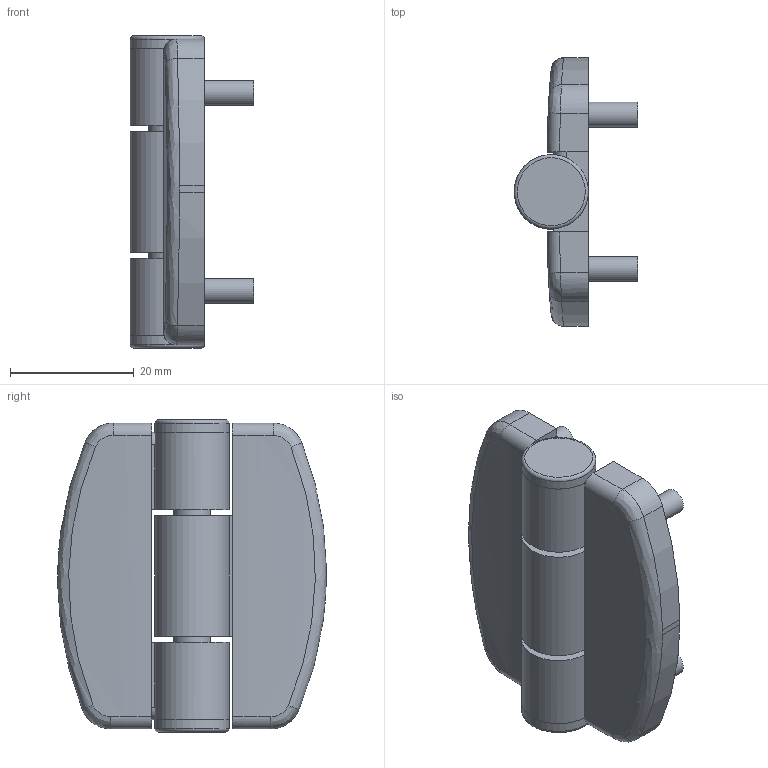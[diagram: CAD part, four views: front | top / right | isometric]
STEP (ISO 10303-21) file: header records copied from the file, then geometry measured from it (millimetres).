
FILE_DESCRIPTION(/* description */ (''),/* implementation_level */ '2;1');
FILE_NAME(/* name */ '\\NAS\db20\H-CV-042\DR_H-CV042.stp',/* time_stamp */ '2017-08-23T16:45:37+09:00',/* author */ ('user'),/* organization */ (''),/* preprocessor_version */ 'ST-DEVELOPER v15.6',/* originating_system */ 'Autodesk Inventor 2015',/* authorisation */ '');
FILE_SCHEMA (('AUTOMOTIVE_DESIGN { 1 0 10303 214 3 1 1 }'));
Length unit declared in the file: millimetre
Products named in the file (6): DR_H-CV042-P1; DR_H-CV042-P2; DR_H-CV042-PIN; DR_H-CV042-COVER; DR_H-CV042-BOLT; DR_H-CV042
Bounding box: 19.99 x 43.5 x 50.5 mm (x, y, z)
Volume: 15163.2 mm3; surface area: 13222 mm2
Topology: 13 solids, 13 shells, 210 faces, 484 edges, 306 vertices
Faces by surface type: plane 105, cylinder 49, bspline 42, torus 14
Full cylindrical faces by diameter (mm): 4 x4, 4.5 x8, 6 x4, 12 x2
Entity records: 4424 total; most frequent: CARTESIAN_POINT 1348, DIRECTION 598, ORIENTED_EDGE 588, EDGE_CURVE 294, AXIS2_PLACEMENT_3D 229, VERTEX_POINT 198, EDGE_LOOP 160, LINE 140
